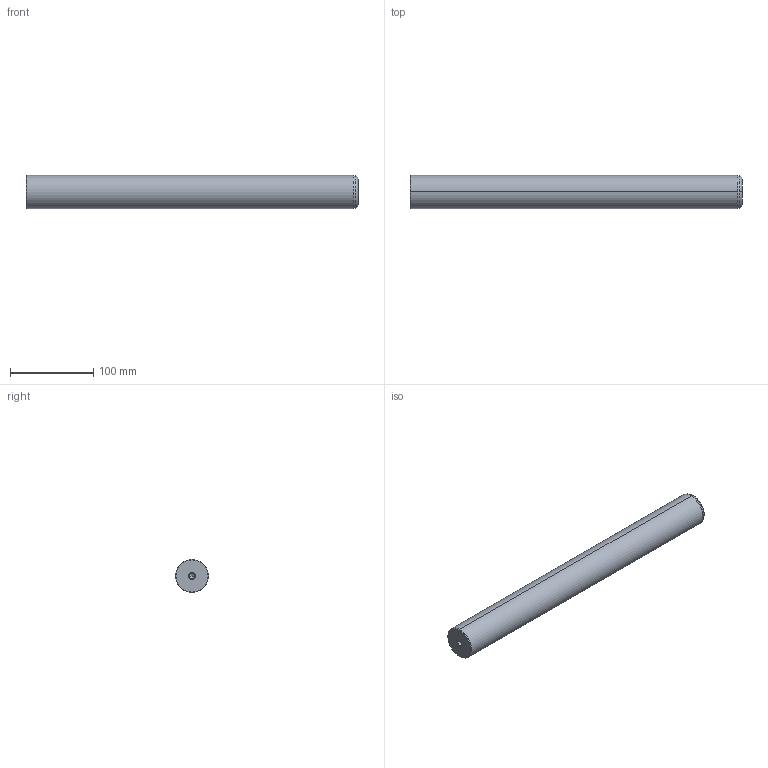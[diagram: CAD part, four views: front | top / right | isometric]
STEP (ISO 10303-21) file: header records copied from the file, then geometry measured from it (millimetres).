
FILE_DESCRIPTION(('CATIA V5 STEP Exchange'),'2;1');
FILE_NAME('C:\Users\Utente\Desktop\IO LAVORO\3D X SITO CF\X SITO\720\720-40x400.stp','2020-12-30T21:55:15+00:00',('none'),('none'),'CATIA Version 5 Release 20 GA (IN-10)','CATIA V5 STEP AP203','none');
FILE_SCHEMA(('CONFIG_CONTROL_DESIGN'));
Length unit declared in the file: millimetre
Products named in the file (1): 720-40x400
Bounding box: 400 x 40 x 40 mm (x, y, z)
Volume: 500281 mm3; surface area: 53449.6 mm2
Topology: 1 solids, 1 shells, 22 faces, 62 edges, 40 vertices
Faces by surface type: cone 12, cylinder 6, plane 2, torus 2
Entity records: 806 total; most frequent: CARTESIAN_POINT 229, ORIENTED_EDGE 116, DIRECTION 93, EDGE_CURVE 58, AXIS2_PLACEMENT_3D 54, VERTEX_POINT 40, CIRCLE 31, EDGE_LOOP 24
